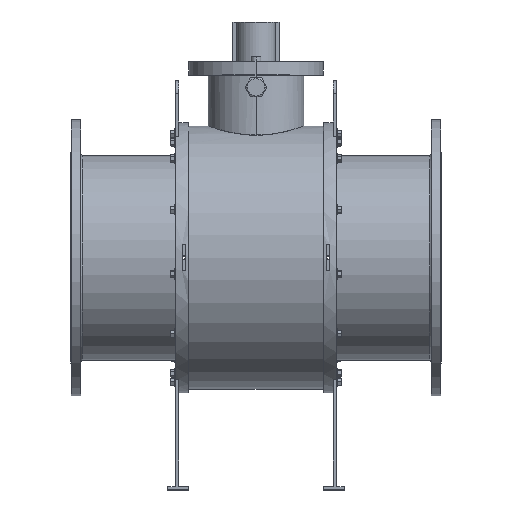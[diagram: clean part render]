
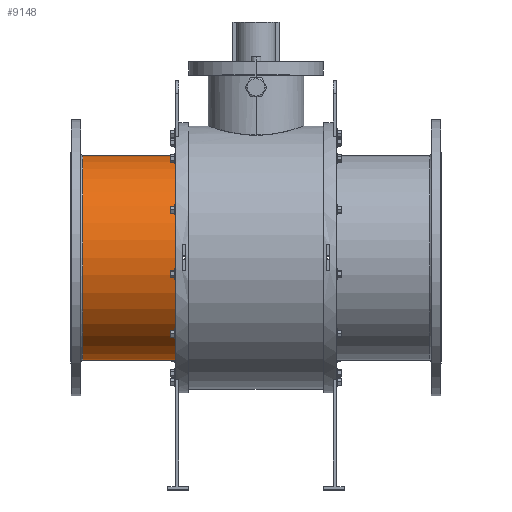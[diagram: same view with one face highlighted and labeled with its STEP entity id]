
A CAD part, top view. The second image highlights one B-rep face of the part: STEP entity #9148.
In plain terms, the highlighted cylindrical face has radius 315.5 mm (diameter 631 mm), a partial arc.
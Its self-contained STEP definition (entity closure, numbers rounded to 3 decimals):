
#282 = CARTESIAN_POINT ( 'NONE',  ( -571.5, 0., 0. ) ) ;
#352 = CIRCLE ( 'NONE', #10595, 315.5 ) ;
#367 = EDGE_CURVE ( 'NONE', #6945, #7969, #11370, .T. ) ;
#916 = VERTEX_POINT ( 'NONE', #7365 ) ;
#1503 = DIRECTION ( 'NONE',  ( -1., 0., 0. ) ) ;
#1866 = AXIS2_PLACEMENT_3D ( 'NONE', #8986, #13310, #11198 ) ;
#2524 = CARTESIAN_POINT ( 'NONE',  ( -571.5, 315.5, 0. ) ) ;
#2549 = CIRCLE ( 'NONE', #1866, 315.5 ) ;
#2970 = FACE_OUTER_BOUND ( 'NONE', #6828, .T. ) ;
#3326 = EDGE_CURVE ( 'NONE', #6945, #916, #352, .T. ) ;
#3629 = CARTESIAN_POINT ( 'NONE',  ( -534.5, 315.5, 0. ) ) ;
#3633 = DIRECTION ( 'NONE',  ( 0., -1., 0. ) ) ;
#3770 = AXIS2_PLACEMENT_3D ( 'NONE', #282, #1503, #3633 ) ;
#4594 = LINE ( 'NONE', #2524, #8233 ) ;
#4874 = CARTESIAN_POINT ( 'NONE',  ( -247.5, -315.5, 0. ) ) ;
#4936 = CARTESIAN_POINT ( 'NONE',  ( -247.5, 0., 0. ) ) ;
#5971 = CARTESIAN_POINT ( 'NONE',  ( -571.5, -315.5, 0. ) ) ;
#6828 = EDGE_LOOP ( 'NONE', ( #9323, #9824, #12914, #7600 ) ) ;
#6945 = VERTEX_POINT ( 'NONE', #4874 ) ;
#7365 = CARTESIAN_POINT ( 'NONE',  ( -247.5, 315.5, 0. ) ) ;
#7600 = ORIENTED_EDGE ( 'NONE', *, *, #367, .F. ) ;
#7969 = VERTEX_POINT ( 'NONE', #9377 ) ;
#8233 = VECTOR ( 'NONE', #10201, 1000. ) ;
#8986 = CARTESIAN_POINT ( 'NONE',  ( -534.5, 0., 0. ) ) ;
#9148 = ADVANCED_FACE ( 'NONE', ( #2970 ), #11649, .T. ) ;
#9323 = ORIENTED_EDGE ( 'NONE', *, *, #3326, .T. ) ;
#9377 = CARTESIAN_POINT ( 'NONE',  ( -534.5, -315.5, 0. ) ) ;
#9824 = ORIENTED_EDGE ( 'NONE', *, *, #13431, .T. ) ;
#10178 = DIRECTION ( 'NONE',  ( 0., 0., 1. ) ) ;
#10201 = DIRECTION ( 'NONE',  ( -1., 0., 0. ) ) ;
#10560 = VERTEX_POINT ( 'NONE', #3629 ) ;
#10595 = AXIS2_PLACEMENT_3D ( 'NONE', #4936, #12312, #10178 ) ;
#11198 = DIRECTION ( 'NONE',  ( 0., -1., 0. ) ) ;
#11370 = LINE ( 'NONE', #5971, #13944 ) ;
#11649 = CYLINDRICAL_SURFACE ( 'NONE', #3770, 315.5 ) ;
#12312 = DIRECTION ( 'NONE',  ( -1., 0., 0. ) ) ;
#12914 = ORIENTED_EDGE ( 'NONE', *, *, #12993, .T. ) ;
#12993 = EDGE_CURVE ( 'NONE', #10560, #7969, #2549, .T. ) ;
#13310 = DIRECTION ( 'NONE',  ( 1., 0., 0. ) ) ;
#13423 = DIRECTION ( 'NONE',  ( -1., 0., 0. ) ) ;
#13431 = EDGE_CURVE ( 'NONE', #916, #10560, #4594, .T. ) ;
#13944 = VECTOR ( 'NONE', #13423, 1000. ) ;
